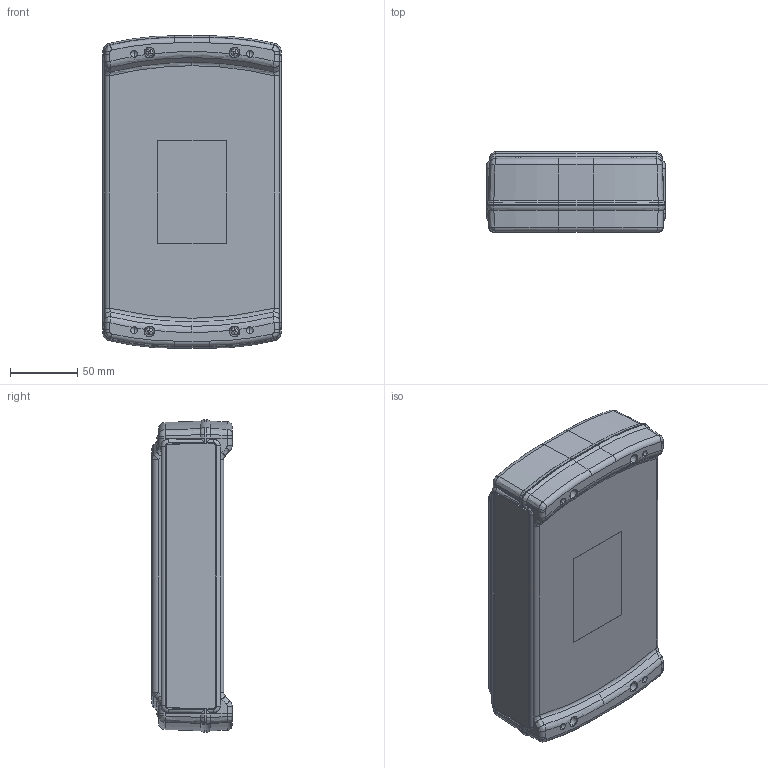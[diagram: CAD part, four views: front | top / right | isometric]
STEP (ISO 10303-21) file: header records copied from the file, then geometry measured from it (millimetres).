
FILE_DESCRIPTION (( 'STEP AP214' ), '1' );
FILE_NAME ('ZN-45MBT_ASS''Y.STEP', '2014-03-27T15:05:37', ( 'doug' ), ( '' ), 'SwSTEP 2.0', 'SolidWorks 2014', '' );
FILE_SCHEMA (( 'AUTOMOTIVE_DESIGN' ));
Length unit declared in the file: inch
Products named in the file (6): ZN-40-PCB; SCREWS-HL5-8-BR_default; ZN-45EP_ZN-45EP; ZN-4XC_ZN-45C-T; ZN-40BMB_ZN-40BMB; ZN-45MBT_ASS''Y
Assembly tree (9 placements, depth 2):
  ZN-45MBT_ASS''Y
    ZN-40BMB_ZN-40BMB
    ZN-4XC_ZN-45C-T
    ZN-45EP_ZN-45EP  x2
    SCREWS-HL5-8-BR_default  x4
    ZN-40-PCB
Bounding box: 133.39 x 60.02 x 233.17 mm (x, y, z)
Volume: 288128.2 mm3; surface area: 262547.5 mm2
Topology: 9 solids, 9 shells, 1356 faces, 3530 edges, 2240 vertices
Faces by surface type: plane 416, cylinder 382, cone 216, bspline 168, torus 142, sphere 32
Entity records: 38318 total; most frequent: CARTESIAN_POINT 14157, ORIENTED_EDGE 5230, DIRECTION 4864, EDGE_CURVE 2615, AXIS2_PLACEMENT_3D 1916, VERTEX_POINT 1633, EDGE_LOOP 1082, VECTOR 1032
